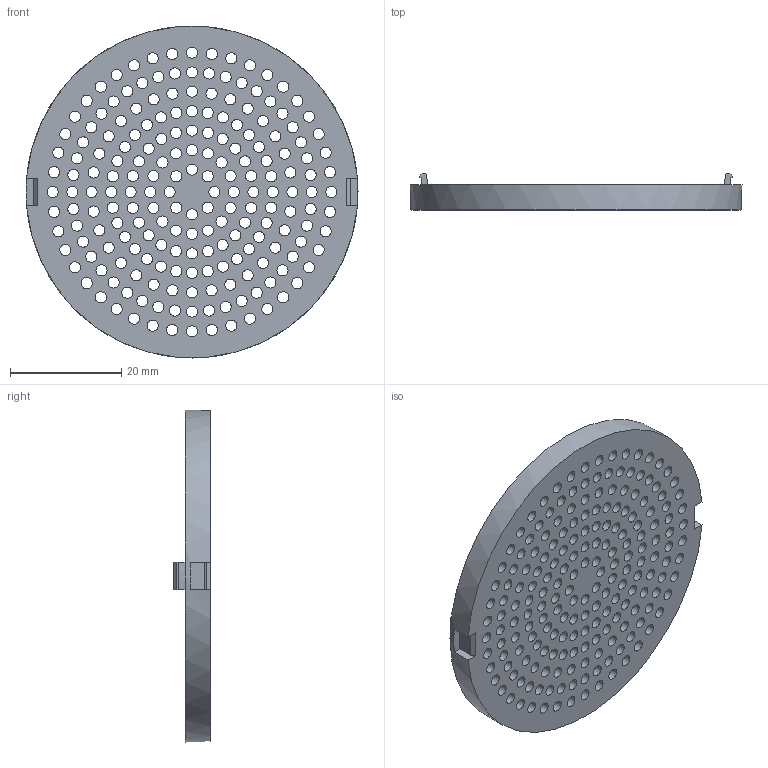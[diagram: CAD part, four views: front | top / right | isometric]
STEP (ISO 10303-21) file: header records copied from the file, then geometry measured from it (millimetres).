
FILE_DESCRIPTION(/* description */ (''),/* implementation_level */ '2;1');
FILE_NAME(/* name */ '/Users/valerian/Desktop/Filter Box Top Fit x2.step',/* time_stamp */ '2020-11-22T20:30:26+01:00',/* author */ (''),/* organization */ (''),/* preprocessor_version */ 'ST-DEVELOPER v18.1',/* originating_system */ 'Autodesk Translation Framework v9.3.0.1241',/* authorisation */ '');
FILE_SCHEMA (('AUTOMOTIVE_DESIGN { 1 0 10303 214 3 1 1 }'));
Length unit declared in the file: millimetre
Products named in the file (1): Top Fit
Bounding box: 59.6 x 6.5 x 59.6 mm (x, y, z)
Volume: 6122.7 mm3; surface area: 8729.7 mm2
Topology: 1 solids, 1 shells, 236 faces, 699 edges, 466 vertices
Faces by surface type: cylinder 207, plane 27, cone 2
Full cylindrical faces by diameter (mm): 2 x200, 59.6 x1
Entity records: 8979 total; most frequent: DIRECTION 1589, CARTESIAN_POINT 1410, ORIENTED_EDGE 1398, EDGE_CURVE 699, AXIS2_PLACEMENT_3D 657, EDGE_LOOP 637, VERTEX_POINT 466, CIRCLE 420
